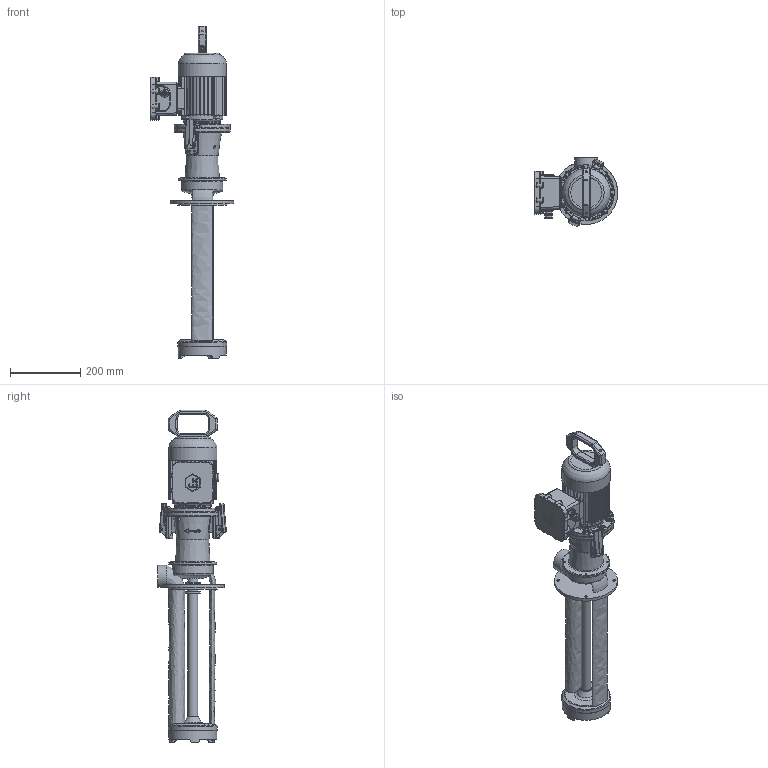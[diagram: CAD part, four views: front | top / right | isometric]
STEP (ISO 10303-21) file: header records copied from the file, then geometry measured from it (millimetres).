
FILE_DESCRIPTION(/* description */ ('Unknown'),/* implementation_level */ '2;1');
FILE_NAME(/* name */ 'EP EX 150-440',/* time_stamp */ '2025-05-30T16:25:10+03:00',/* author */ ('Unknown'),/* organization */ ('Unknown'),/* preprocessor_version */ 'ST-DEVELOPER v16.7',/* originating_system */ 'DEX',/* authorisation */ $);
FILE_SCHEMA (('AUTOMOTIVE_DESIGN {1 0 10303 214 3 1 1}'));
Length unit declared in the file: millimetre
Products named in the file (1): EP EX 150-440
Bounding box: 238.5 x 195.43 x 947.21 mm (x, y, z)
Volume: 7299957.5 mm3; surface area: 759169.9 mm2
Topology: 2 solids, 10 shells, 2376 faces, 6461 edges, 4009 vertices
Faces by surface type: cylinder 897, plane 741, bspline 368, torus 201, cone 90, sphere 79
Full cylindrical faces by diameter (mm): 3 x12, 3.242 x12, 4 x14, 4.134 x24, 4.9 x4, 5 x86, 5.3 x4, 5.5 x2, 5.7 x8, 6 x8, 7 x8, 8 x3, 9.5 x8, 10 x8, 12 x1, 13 x2, 13.962 x1, 16 x1, 18.376 x5, 20 x1, 21.8 x2, 28 x1, 29 x3, 30 x1, 42 x2, 44 x1, 48 x1, 62 x1, 94 x1, 102 x1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
Entity records: 113401 total; most frequent: CARTESIAN_POINT 43043, ORIENTED_EDGE 11576, DIRECTION 10828, EDGE_CURVE 5788, AXIS2_PLACEMENT_3D 4274, VERTEX_POINT 3794, FACE_BOUND 2816, EDGE_LOOP 2808
